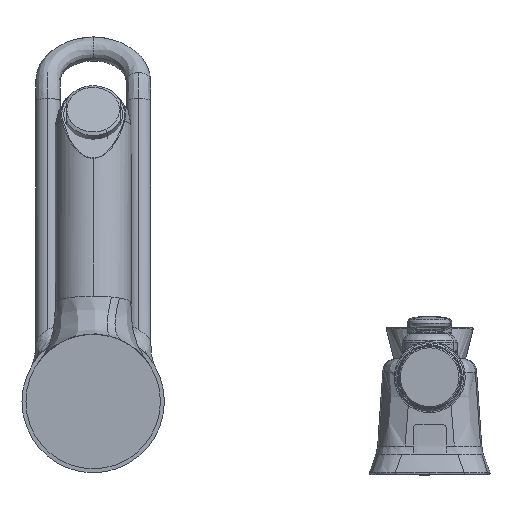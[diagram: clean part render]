
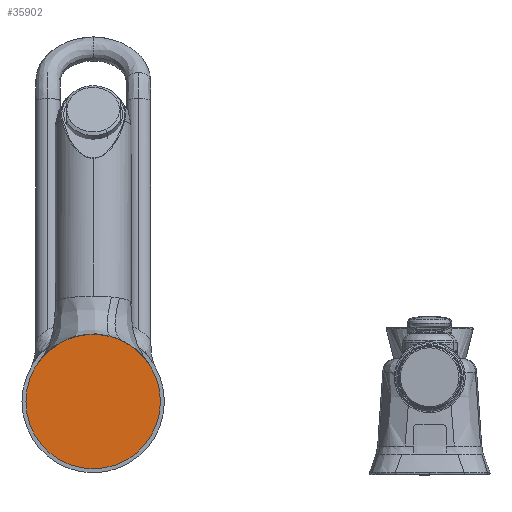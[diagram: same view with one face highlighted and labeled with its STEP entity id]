
A CAD part, front view. The second image highlights one B-rep face of the part: STEP entity #35902.
In plain terms, the highlighted planar face has unit normal (0, -1, 0).
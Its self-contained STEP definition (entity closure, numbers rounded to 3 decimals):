
#4870 = DIRECTION ( 'NONE',  ( 0., 1., 0. ) ) ;
#8043 = DIRECTION ( 'NONE',  ( 0., 0., 1. ) ) ;
#10327 = PLANE ( 'NONE',  #18501 ) ;
#15995 = AXIS2_PLACEMENT_3D ( 'NONE', #32268, #31090, #8043 ) ;
#17873 = ORIENTED_EDGE ( 'NONE', *, *, #41730, .F. ) ;
#18501 = AXIS2_PLACEMENT_3D ( 'NONE', #66429, #71667, #35763 ) ;
#20286 = VERTEX_POINT ( 'NONE', #40944 ) ;
#23822 = CARTESIAN_POINT ( 'NONE',  ( -8.156, 267.651, 415.943 ) ) ;
#27113 = AXIS2_PLACEMENT_3D ( 'NONE', #33646, #4870, #60560 ) ;
#31090 = DIRECTION ( 'NONE',  ( 0., 1., 0. ) ) ;
#32268 = CARTESIAN_POINT ( 'NONE',  ( -8.156, 267.651, 388.443 ) ) ;
#33646 = CARTESIAN_POINT ( 'NONE',  ( -8.156, 267.651, 388.443 ) ) ;
#35763 = DIRECTION ( 'NONE',  ( 0., 0., 1. ) ) ;
#35902 = ADVANCED_FACE ( 'NONE', ( #41007 ), #10327, .F. ) ;
#36652 = CIRCLE ( 'NONE', #15995, 27.5 ) ;
#39437 = VERTEX_POINT ( 'NONE', #23822 ) ;
#40944 = CARTESIAN_POINT ( 'NONE',  ( -8.156, 267.651, 360.943 ) ) ;
#41007 = FACE_OUTER_BOUND ( 'NONE', #66364, .T. ) ;
#41730 = EDGE_CURVE ( 'NONE', #20286, #39437, #36652, .T. ) ;
#54124 = EDGE_CURVE ( 'NONE', #39437, #20286, #76152, .T. ) ;
#60560 = DIRECTION ( 'NONE',  ( 0., 0., 1. ) ) ;
#66364 = EDGE_LOOP ( 'NONE', ( #79370, #17873 ) ) ;
#66429 = CARTESIAN_POINT ( 'NONE',  ( -8.156, 267.651, 360.943 ) ) ;
#71667 = DIRECTION ( 'NONE',  ( 0., 1., 0. ) ) ;
#76152 = CIRCLE ( 'NONE', #27113, 27.5 ) ;
#79370 = ORIENTED_EDGE ( 'NONE', *, *, #54124, .F. ) ;
